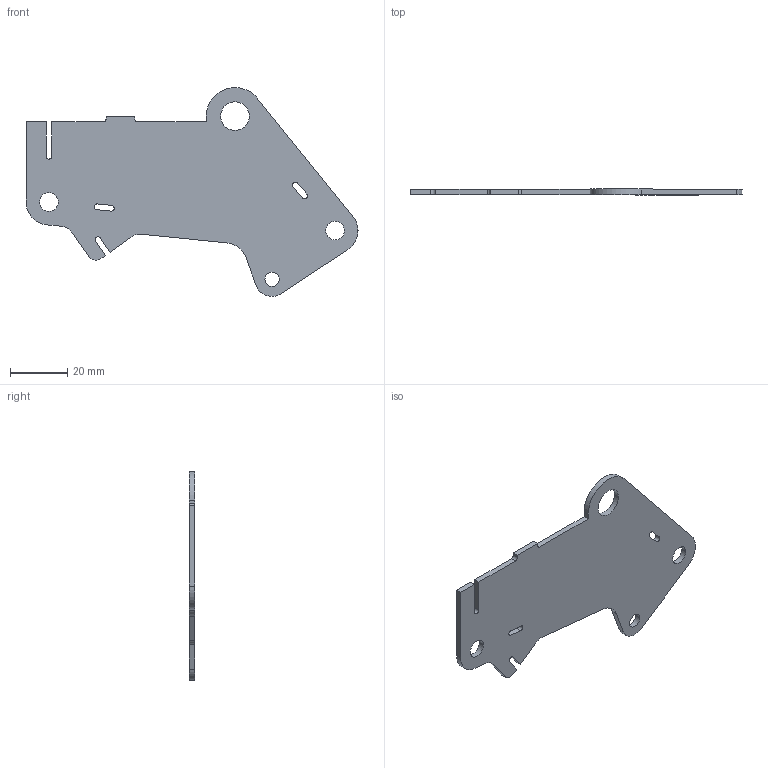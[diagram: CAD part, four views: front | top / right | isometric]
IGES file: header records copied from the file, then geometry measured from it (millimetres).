
Start section: START RECORD GO HERE.
Global section: file name: FR_11001_3 (Frame Throttle).igs; native system: IBM CATIA IGES - CATIA Version 5 Release 19 ; preprocessor: CATIA Version 5 Release 19 ; author: jacqu; organization: ASUS-TUF-JACQUE; date: 20200226.091802; units: millimetre
Bounding box: 116 x 2 x 72.96 mm (x, y, z)
Surface area: 10424.8 mm2 (no closed solid volume)
Topology: 0 solids, 0 shells, 50 faces, 288 edges, 288 vertices
Faces by surface type: plane 26, revolution 24
